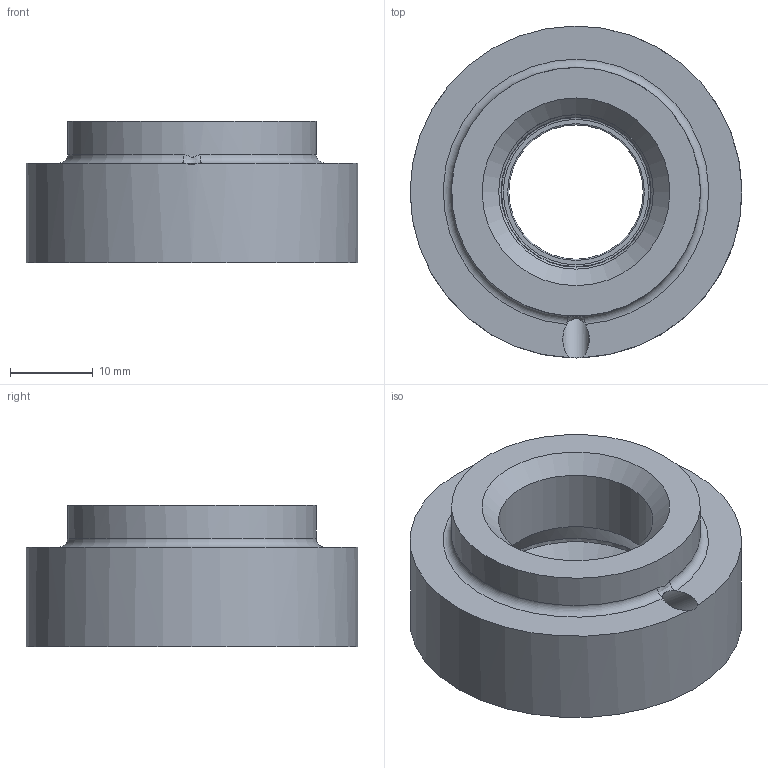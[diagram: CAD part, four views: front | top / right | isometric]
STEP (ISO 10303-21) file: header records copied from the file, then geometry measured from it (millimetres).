
FILE_DESCRIPTION(/* description */ ('Unknown'),/* implementation_level */ '2;1');
FILE_NAME(/* name */ 'HAW-12G-OTK2',/* time_stamp */ '2025-01-06T15:53:50-05:00',/* author */ ('Unknown'),/* organization */ ('Unknown'),/* preprocessor_version */ 'ST-DEVELOPER v16.7',/* originating_system */ 'Solid Edge',/* authorisation */ 'Unknown');
FILE_SCHEMA (('AUTOMOTIVE_DESIGN {1 0 10303 214 3 1 1}'));
Length unit declared in the file: millimetre
Products named in the file (1): HAW-12G-OTK_Gen-2
Bounding box: 40 x 40 x 17.03 mm (x, y, z)
Volume: 13540 mm3; surface area: 5159.5 mm2
Topology: 1 solids, 1 shells, 20 faces, 48 edges, 29 vertices
Faces by surface type: torus 5, cylinder 5, cone 5, plane 4, bspline 1
Full cylindrical faces by diameter (mm): 3.2 x1, 18.631 x1, 22 x1, 30 x1, 40 x1
Entity records: 751 total; most frequent: CARTESIAN_POINT 213, DIRECTION 84, ORIENTED_EDGE 54, AXIS2_PLACEMENT_3D 42, EDGE_LOOP 37, FACE_BOUND 37, EDGE_CURVE 27, VERTEX_POINT 22
